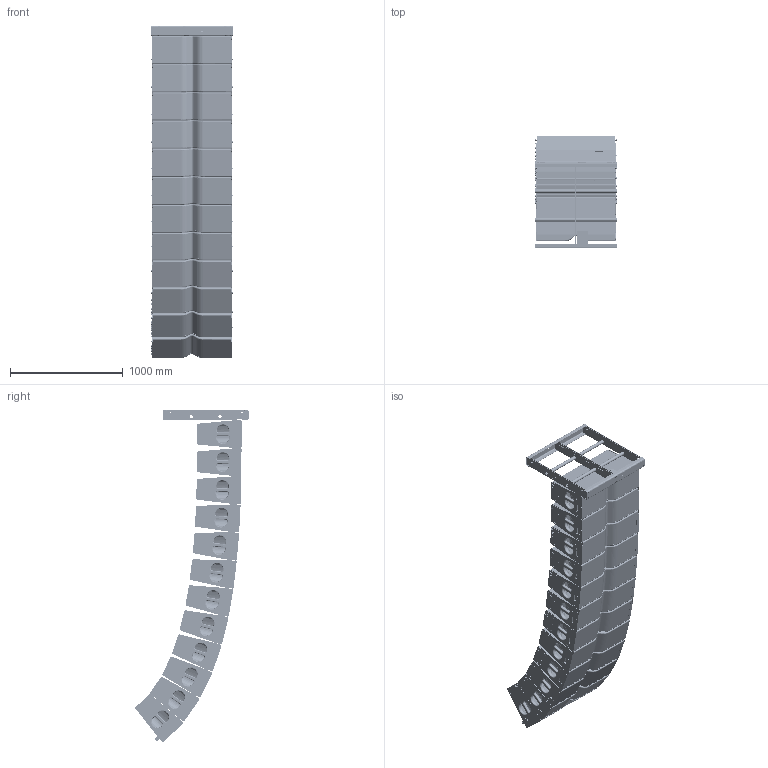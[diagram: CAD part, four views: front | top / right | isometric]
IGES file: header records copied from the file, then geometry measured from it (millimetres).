
Global section: file name: LA28 12 Box ARRAY v3; native system: unknown; preprocessor: unknown; author: unknown; organization: unknown; date: 20230122.003847; units: inch
Bounding box: 727.77 x 1003.94 x 2939.77 mm (x, y, z)
Volume: 693236962.9 mm3; surface area: 16439620.8 mm2
Topology: 27 solids, 27 shells, 5633 faces, 14951 edges, 10044 vertices
Faces by surface type: bspline 5633
